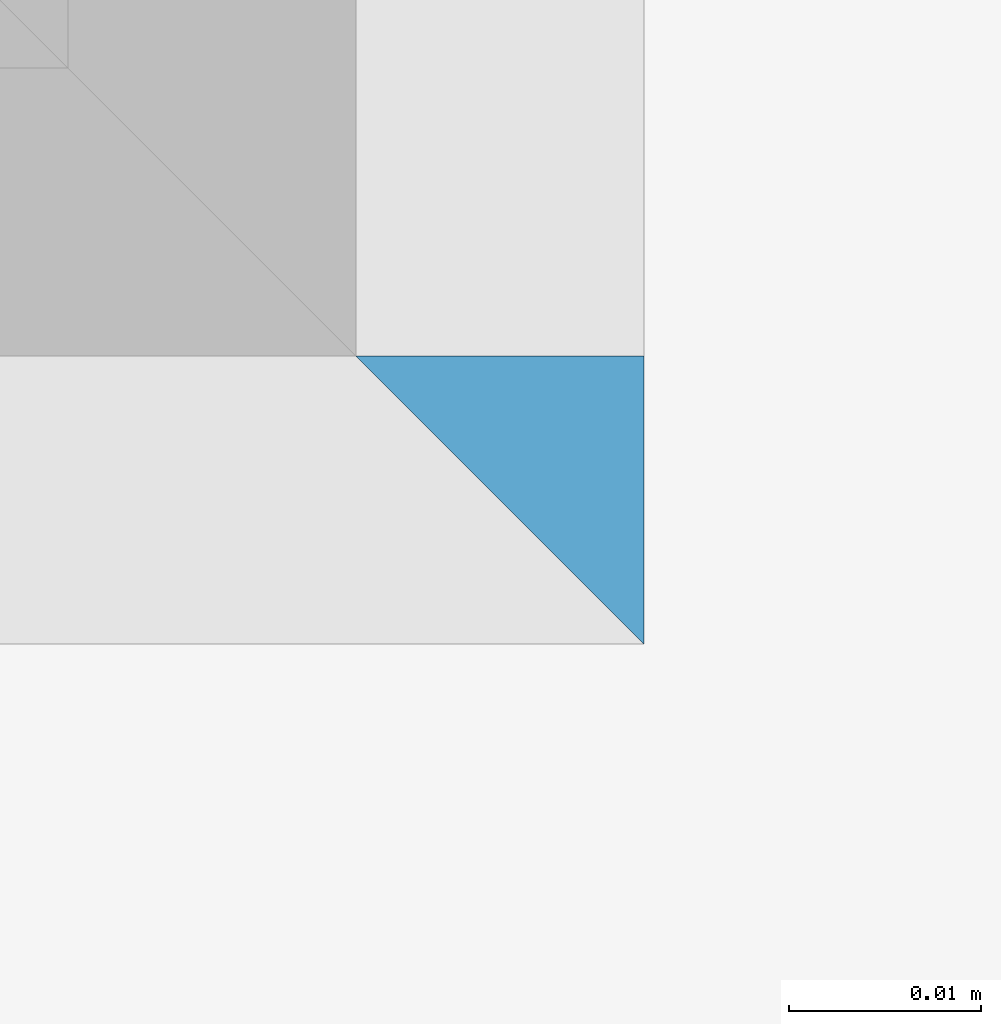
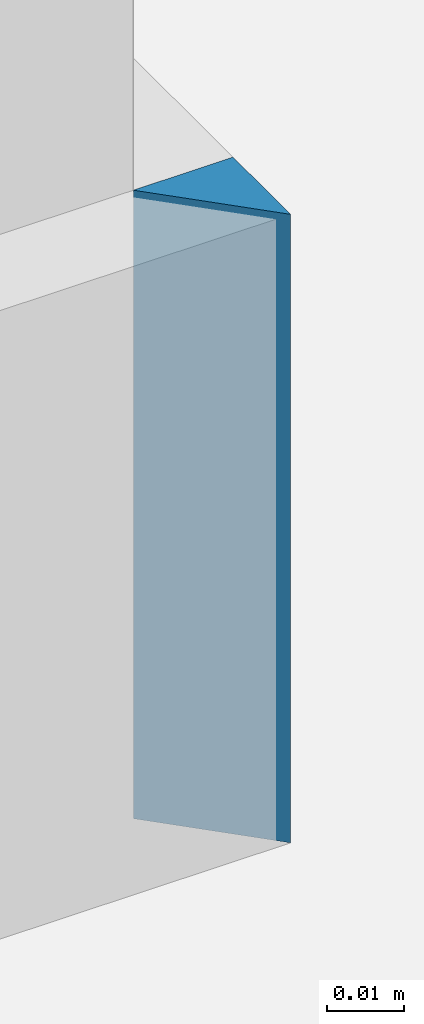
# One storey, part 8 of 65: 1 wall.
"""IFC2X3 building model written with IfcOpenShell, lengths in metres."""

from ifc_helpers import new_model, entity, si_unit, converted_unit, derived_unit, money_unit, direction, frame, origin_with_axes, place, context, subcontext, project, spatial, polyline, outline, extrude, material, layer, layer_set, layer_usage, type_object, element, save


model = new_model("IFC2X3")

# Units and contexts
model_context = context("Model", 3, precision=1e-05, world=origin_with_axes(), true_north=direction((0.0, 1.0)))
body_context = subcontext(model_context, "Body", "Model", "MODEL_VIEW", scale=1.0)
ifc_project = project(units=[si_unit("LENGTHUNIT", "METRE"), si_unit("AREAUNIT", "SQUARE_METRE"), si_unit("VOLUMEUNIT", "CUBIC_METRE"), si_unit("ABSORBEDDOSEUNIT", "GRAY"), si_unit("AMOUNTOFSUBSTANCEUNIT", "MOLE"), si_unit("DOSEEQUIVALENTUNIT", "SIEVERT"), si_unit("ELECTRICCAPACITANCEUNIT", "FARAD"), si_unit("ELECTRICCHARGEUNIT", "COULOMB"), si_unit("ELECTRICCONDUCTANCEUNIT", "SIEMENS"), si_unit("ELECTRICCURRENTUNIT", "AMPERE"), si_unit("ELECTRICRESISTANCEUNIT", "OHM"), si_unit("ELECTRICVOLTAGEUNIT", "VOLT"), si_unit("ENERGYUNIT", "JOULE"), si_unit("FORCEUNIT", "NEWTON"), si_unit("FREQUENCYUNIT", "HERTZ"), si_unit("ILLUMINANCEUNIT", "LUX"), si_unit("INDUCTANCEUNIT", "HENRY"), si_unit("LUMINOUSFLUXUNIT", "LUMEN"), si_unit("LUMINOUSINTENSITYUNIT", "CANDELA"), si_unit("MAGNETICFLUXDENSITYUNIT", "TESLA"), si_unit("MAGNETICFLUXUNIT", "WEBER"), si_unit("MASSUNIT", "GRAM"), converted_unit("PLANEANGLEUNIT", "degree", entity("IfcReal", 0.0174532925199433), si_unit("PLANEANGLEUNIT", "RADIAN"), dimensions=[0, 0, 0, 0, 0, 0, 0]), si_unit("POWERUNIT", "WATT"), si_unit("PRESSUREUNIT", "PASCAL"), si_unit("RADIOACTIVITYUNIT", "BECQUEREL"), si_unit("SOLIDANGLEUNIT", "STERADIAN"), si_unit("THERMODYNAMICTEMPERATUREUNIT", "KELVIN"), si_unit("TIMEUNIT", "SECOND"), derived_unit("ACCELERATIONUNIT", [(si_unit("LENGTHUNIT", "METRE"), 1), (si_unit("TIMEUNIT", "SECOND"), -2)]), derived_unit("ANGULARVELOCITYUNIT", [(converted_unit("PLANEANGLEUNIT", "degree", entity("IfcReal", 0.0174532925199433), si_unit("PLANEANGLEUNIT", "RADIAN"), dimensions=[0, 0, 0, 0, 0, 0, 0]), 1), (si_unit("TIMEUNIT", "SECOND"), -1)]), derived_unit("CURVATUREUNIT", [(converted_unit("PLANEANGLEUNIT", "degree", entity("IfcReal", 0.0174532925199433), si_unit("PLANEANGLEUNIT", "RADIAN"), dimensions=[0, 0, 0, 0, 0, 0, 0]), 1), (si_unit("LENGTHUNIT", "METRE"), -1)]), derived_unit("DYNAMICVISCOSITYUNIT", [(si_unit("PRESSUREUNIT", "PASCAL"), 1), (si_unit("TIMEUNIT", "SECOND"), 1)]), derived_unit("HEATFLUXDENSITYUNIT", [(si_unit("POWERUNIT", "WATT"), 1), (si_unit("LENGTHUNIT", "METRE"), -2)]), derived_unit("HEATINGVALUEUNIT", [(si_unit("ENERGYUNIT", "JOULE"), 1), (si_unit("MASSUNIT", "GRAM"), -1)]), derived_unit("INTEGERCOUNTRATEUNIT", [(si_unit("TIMEUNIT", "SECOND"), -1)]), derived_unit("IONCONCENTRATIONUNIT", [(si_unit("MASSUNIT", "GRAM"), 1), (si_unit("VOLUMEUNIT", "CUBIC_METRE"), -1)]), derived_unit("ISOTHERMALMOISTURECAPACITYUNIT", [(si_unit("VOLUMEUNIT", "CUBIC_METRE"), 1), (si_unit("MASSUNIT", "GRAM"), -1)]), derived_unit("KINEMATICVISCOSITYUNIT", [(si_unit("AREAUNIT", "SQUARE_METRE"), 1), (si_unit("TIMEUNIT", "SECOND"), -1)]), derived_unit("LINEARFORCEUNIT", [(si_unit("FORCEUNIT", "NEWTON"), 1), (si_unit("LENGTHUNIT", "METRE"), -1)]), derived_unit("LINEARMOMENTUNIT", [(si_unit("FORCEUNIT", "NEWTON"), 1), (si_unit("LENGTHUNIT", "METRE"), -1)]), derived_unit("LINEARSTIFFNESSUNIT", [(si_unit("FORCEUNIT", "NEWTON"), 1), (si_unit("LENGTHUNIT", "METRE"), -1)]), derived_unit("LINEARVELOCITYUNIT", [(si_unit("LENGTHUNIT", "METRE"), 1), (si_unit("TIMEUNIT", "SECOND"), -1)]), derived_unit("LUMINOUSINTENSITYDISTRIBUTIONUNIT", [(si_unit("LUMINOUSINTENSITYUNIT", "CANDELA"), 1), (si_unit("LUMINOUSFLUXUNIT", "LUMEN"), -1)]), derived_unit("MASSDENSITYUNIT", [(si_unit("MASSUNIT", "GRAM"), 1), (si_unit("VOLUMEUNIT", "CUBIC_METRE"), -1)]), derived_unit("MASSFLOWRATEUNIT", [(si_unit("MASSUNIT", "GRAM"), 1), (si_unit("TIMEUNIT", "SECOND"), -1)]), derived_unit("MASSPERLENGTHUNIT", [(si_unit("MASSUNIT", "GRAM"), 1), (si_unit("LENGTHUNIT", "METRE"), -1)]), derived_unit("MODULUSOFELASTICITYUNIT", [(si_unit("FORCEUNIT", "NEWTON"), 1), (si_unit("AREAUNIT", "SQUARE_METRE"), -1)]), derived_unit("MODULUSOFLINEARSUBGRADEREACTIONUNIT", [(si_unit("FORCEUNIT", "NEWTON"), 1), (si_unit("LENGTHUNIT", "METRE"), -2)]), derived_unit("MODULUSOFROTATIONALSUBGRADEREACTIONUNIT", [(si_unit("FORCEUNIT", "NEWTON"), 1), (si_unit("LENGTHUNIT", "METRE"), 1)]), derived_unit("MODULUSOFSUBGRADEREACTIONUNIT", [(si_unit("FORCEUNIT", "NEWTON"), 1), (si_unit("VOLUMEUNIT", "CUBIC_METRE"), -1)]), derived_unit("MOISTUREDIFFUSIVITYUNIT", [(si_unit("VOLUMEUNIT", "CUBIC_METRE"), 1), (si_unit("TIMEUNIT", "SECOND"), -1)]), derived_unit("MOLECULARWEIGHTUNIT", [(si_unit("MASSUNIT", "GRAM"), 1), (si_unit("AMOUNTOFSUBSTANCEUNIT", "MOLE"), -1)]), derived_unit("PLANARFORCEUNIT", [(si_unit("FORCEUNIT", "NEWTON"), 1), (si_unit("LENGTHUNIT", "METRE"), -2)]), derived_unit("ROTATIONALFREQUENCYUNIT", [(si_unit("TIMEUNIT", "SECOND"), -1)]), derived_unit("ROTATIONALMASSUNIT", [(si_unit("MASSUNIT", "GRAM"), 1), (si_unit("LENGTHUNIT", "METRE"), 2)]), derived_unit("ROTATIONALSTIFFNESSUNIT", [(si_unit("FORCEUNIT", "NEWTON"), 1), (si_unit("LENGTHUNIT", "METRE"), 1), (converted_unit("PLANEANGLEUNIT", "degree", entity("IfcReal", 0.0174532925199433), si_unit("PLANEANGLEUNIT", "RADIAN"), dimensions=[0, 0, 0, 0, 0, 0, 0]), -1)]), derived_unit("SECTIONAREAINTEGRALUNIT", [(si_unit("LENGTHUNIT", "METRE"), 5)]), derived_unit("SECTIONMODULUSUNIT", [(si_unit("LENGTHUNIT", "METRE"), 3)]), derived_unit("SHEARMODULUSUNIT", [(si_unit("FORCEUNIT", "NEWTON"), 1), (si_unit("AREAUNIT", "SQUARE_METRE"), -1)]), derived_unit("SOUNDPOWERUNIT", [(si_unit("ENERGYUNIT", "JOULE"), 1), (si_unit("TIMEUNIT", "SECOND"), -1)]), derived_unit("SPECIFICHEATCAPACITYUNIT", [(si_unit("FORCEUNIT", "NEWTON"), 1), (si_unit("MASSUNIT", "GRAM"), -1), (si_unit("THERMODYNAMICTEMPERATUREUNIT", "KELVIN"), -1)]), derived_unit("TEMPERATUREGRADIENTUNIT", [(si_unit("THERMODYNAMICTEMPERATUREUNIT", "KELVIN"), 1), (si_unit("LENGTHUNIT", "METRE"), -1)]), derived_unit("THERMALADMITTANCEUNIT", [(si_unit("POWERUNIT", "WATT"), 1), (si_unit("AREAUNIT", "SQUARE_METRE"), -1), (si_unit("THERMODYNAMICTEMPERATUREUNIT", "KELVIN"), -1)]), derived_unit("THERMALCONDUCTANCEUNIT", [(si_unit("POWERUNIT", "WATT"), 1), (si_unit("LENGTHUNIT", "METRE"), -1), (si_unit("THERMODYNAMICTEMPERATUREUNIT", "KELVIN"), -1)]), derived_unit("THERMALEXPANSIONCOEFFICIENTUNIT", [(si_unit("THERMODYNAMICTEMPERATUREUNIT", "KELVIN"), -1)]), derived_unit("THERMALRESISTANCEUNIT", [(si_unit("AREAUNIT", "SQUARE_METRE"), 1), (si_unit("POWERUNIT", "WATT"), -1)]), derived_unit("THERMALTRANSMITTANCEUNIT", [(si_unit("POWERUNIT", "WATT"), 1), (si_unit("AREAUNIT", "SQUARE_METRE"), -1), (si_unit("THERMODYNAMICTEMPERATUREUNIT", "KELVIN"), -1)]), derived_unit("TORQUEUNIT", [(si_unit("FORCEUNIT", "NEWTON"), 1), (si_unit("LENGTHUNIT", "METRE"), 1)]), derived_unit("VAPORPERMEABILITYUNIT", [(si_unit("MASSUNIT", "GRAM"), 1), (si_unit("TIMEUNIT", "SECOND"), -1)]), derived_unit("VOLUMETRICFLOWRATEUNIT", [(si_unit("VOLUMEUNIT", "CUBIC_METRE"), 1), (si_unit("TIMEUNIT", "SECOND"), -1)]), derived_unit("WARPINGCONSTANTUNIT", [(si_unit("LENGTHUNIT", "METRE"), 6)]), derived_unit("WARPINGMOMENTUNIT", [(si_unit("FORCEUNIT", "NEWTON"), 1), (si_unit("LENGTHUNIT", "METRE"), 2)]), money_unit("GBP")], contexts=[model_context])

# Site, building, storey
site_placement = place(None, origin_with_axes())
site = spatial("IfcSite", under=ifc_project, at=site_placement, Name="Site", CompositionType="ELEMENT")
building_placement = place(site_placement, origin_with_axes())
building = spatial("IfcBuilding", under=site, at=building_placement, Name="Building01", CompositionType="ELEMENT")
storey_placement = place(building_placement, frame((0.0, 0.0, 8.64), z_axis=(0.0, 0.0, 1.0), x_axis=(1.0, 0.0, 0.0)))
storey = spatial("IfcBuildingStorey", under=building, at=storey_placement, Name="2F", CompositionType="ELEMENT", Elevation=8.64)

# Wall
ifc_material = material(Name="A_BSUK_Walls_Timber")
ifc_layer = layer(ifc_material, 0.015, ventilated=False)
ifc_layer_set = layer_set([ifc_layer])
ifc_layer_usage = layer_usage(ifc_layer_set, "AXIS2", "POSITIVE", 0.0)
wall_type = type_object("IfcWallType", Name="default", PredefinedType="NOTDEFINED")
wall_placement = place(storey_placement, frame((14.85, 4.164443, 0.015), z_axis=(0.0, 0.0, 1.0), x_axis=(0.0, 1.0, 0.0)))
element("IfcWallStandardCase", 1, at=wall_placement, inside=storey, type_object=wall_type, material=ifc_layer_usage, Name="default", ObjectType="default", context=body_context, shape_type="SweptSolid", body=[
    extrude(outline(polyline([(-0.015015, -0.015), (0.0, -0.015), (0.0, 0.0), (-1.5e-05, 0.0), (-0.015015, -0.015)])), origin_with_axes(), (0.0, 0.0, 1.0), 0.1),
])

save(model, "model.ifc")
